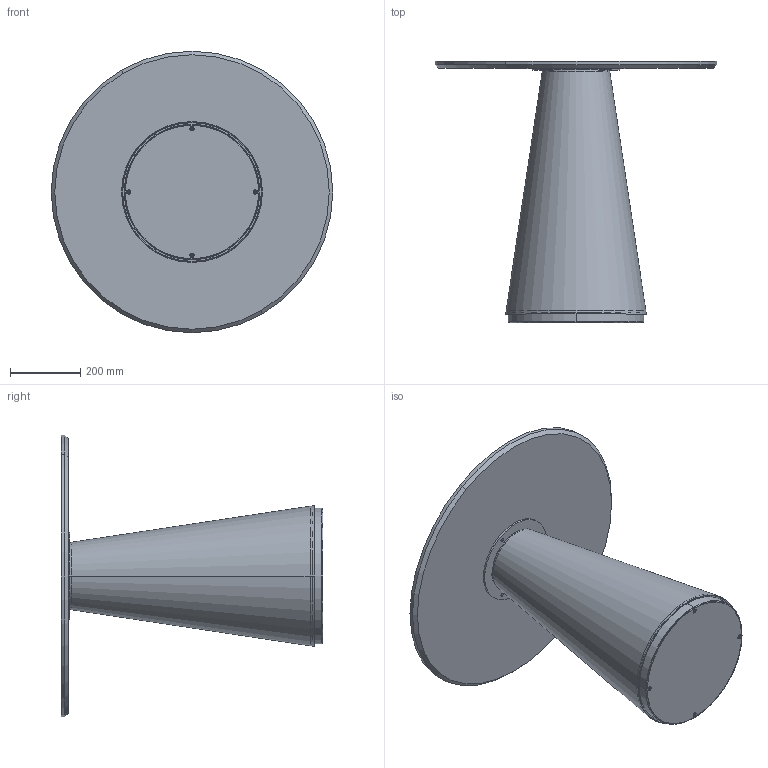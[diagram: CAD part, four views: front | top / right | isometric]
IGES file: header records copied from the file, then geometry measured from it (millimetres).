
Start section: SolidWorks IGES file using analytic representation for surfaces
Global section: file name: Y:\eforma\TECNICO\SOLIDWORKS\E-FORMA\5-TAVOLINI BISTRO\TED\02 parts\TE20M.IGS; native system: SolidWorks 2022; preprocessor: SolidWorks 2022; author: eforma.tech; date: 240808.094747; units: millimetre
Bounding box: 800 x 743.5 x 800 mm (x, y, z)
Volume: 11311510 mm3; surface area: 2847095.8 mm2
Topology: 14 solids, 14 shells, 376 faces, 795 edges, 436 vertices
Faces by surface type: revolution 201, plane 175
